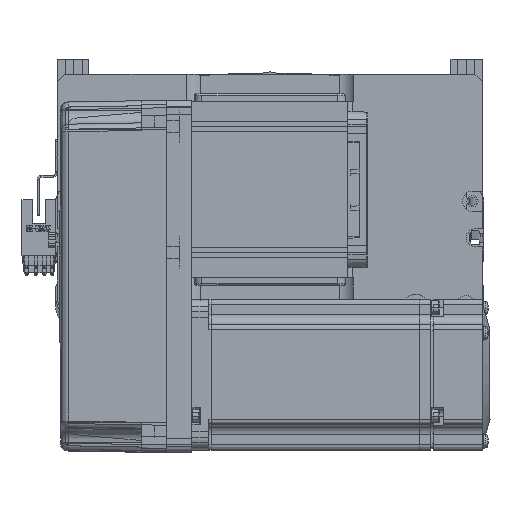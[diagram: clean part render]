
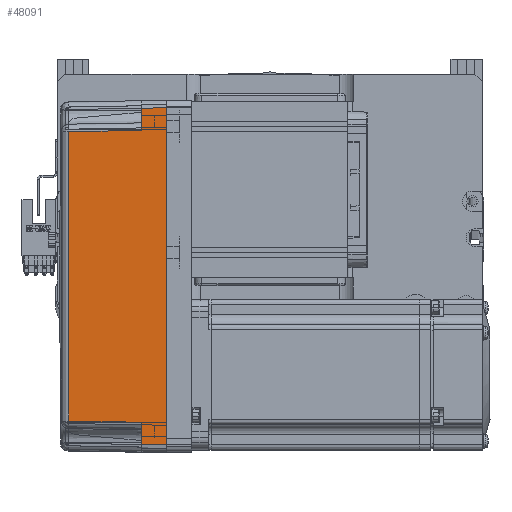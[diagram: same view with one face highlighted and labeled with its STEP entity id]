
A CAD part, top view. The second image highlights one B-rep face of the part: STEP entity #48091.
In plain terms, the highlighted planar face has unit normal (-0.018, 0, 1) as drawn and (0, -1, 0.017) by its records, which use the part's own axes.
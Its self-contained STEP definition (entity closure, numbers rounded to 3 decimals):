
#120 = CARTESIAN_POINT ( 'NONE',  ( 66.826, -35.825, 10. ) ) ;
#4105 = CARTESIAN_POINT ( 'NONE',  ( 57.495, -35.32, 38.985 ) ) ;
#5596 = VERTEX_POINT ( 'NONE', #7507 ) ;
#5601 = CARTESIAN_POINT ( 'NONE',  ( 70., -35.825, 10. ) ) ;
#5920 = ORIENTED_EDGE ( 'NONE', *, *, #43142, .T. ) ;
#7507 = CARTESIAN_POINT ( 'NONE',  ( -67., -36., 0. ) ) ;
#7694 = VECTOR ( 'NONE', #14214, 1000. ) ;
#7982 = CARTESIAN_POINT ( 'NONE',  ( -66.959, -35.958, 2.39 ) ) ;
#8060 = DIRECTION ( 'NONE',  ( 0., -0.017, -1. ) ) ;
#9999 = VECTOR ( 'NONE', #15807, 1000. ) ;
#10722 = CARTESIAN_POINT ( 'NONE',  ( 58., -35.825, 10. ) ) ;
#10927 = LINE ( 'NONE', #16470, #7694 ) ;
#11563 = ORIENTED_EDGE ( 'NONE', *, *, #63615, .T. ) ;
#11818 = CARTESIAN_POINT ( 'NONE',  ( -66.826, -35.825, 10. ) ) ;
#13526 = DIRECTION ( 'NONE',  ( -0.017, 0.017, 1. ) ) ;
#14214 = DIRECTION ( 'NONE',  ( -1., 0., 0. ) ) ;
#15003 = ORIENTED_EDGE ( 'NONE', *, *, #39105, .T. ) ;
#15807 = DIRECTION ( 'NONE',  ( -1., 0., 0. ) ) ;
#16470 = CARTESIAN_POINT ( 'NONE',  ( 0., -36., 0. ) ) ;
#17530 = EDGE_CURVE ( 'NONE', #19222, #5596, #10927, .T. ) ;
#19222 = VERTEX_POINT ( 'NONE', #44253 ) ;
#19771 = CARTESIAN_POINT ( 'NONE',  ( 70., -35.825, 10. ) ) ;
#20755 = VECTOR ( 'NONE', #48804, 1000. ) ;
#21116 = LINE ( 'NONE', #19771, #34849 ) ;
#21977 = VERTEX_POINT ( 'NONE', #48353 ) ;
#24175 = VERTEX_POINT ( 'NONE', #10722 ) ;
#24476 = LINE ( 'NONE', #59557, #30919 ) ;
#24515 = CARTESIAN_POINT ( 'NONE',  ( 19.165, -35.316, 39.181 ) ) ;
#24696 = EDGE_CURVE ( 'NONE', #24175, #25504, #34433, .T. ) ;
#25195 = DIRECTION ( 'NONE',  ( -1., 0., 0. ) ) ;
#25504 = VERTEX_POINT ( 'NONE', #65760 ) ;
#28864 = DIRECTION ( 'NONE',  ( -0.017, -0.017, -1. ) ) ;
#28892 = CARTESIAN_POINT ( 'NONE',  ( 67., -36., 0. ) ) ;
#29580 = ORIENTED_EDGE ( 'NONE', *, *, #30794, .T. ) ;
#30794 = EDGE_CURVE ( 'NONE', #25504, #50284, #65531, .T. ) ;
#30919 = VECTOR ( 'NONE', #28864, 1000. ) ;
#31007 = ORIENTED_EDGE ( 'NONE', *, *, #24696, .T. ) ;
#32232 = VERTEX_POINT ( 'NONE', #11818 ) ;
#33789 = ORIENTED_EDGE ( 'NONE', *, *, #55203, .F. ) ;
#33841 = CARTESIAN_POINT ( 'NONE',  ( 70., -36., 0. ) ) ;
#34433 = LINE ( 'NONE', #67083, #48934 ) ;
#34669 = LINE ( 'NONE', #28892, #64526 ) ;
#34849 = VECTOR ( 'NONE', #25195, 1000. ) ;
#35658 = FACE_OUTER_BOUND ( 'NONE', #63757, .T. ) ;
#37862 = AXIS2_PLACEMENT_3D ( 'NONE', #33841, #44168, #8060 ) ;
#39105 = EDGE_CURVE ( 'NONE', #21977, #32232, #21116, .T. ) ;
#39330 = LINE ( 'NONE', #7982, #20755 ) ;
#43142 = EDGE_CURVE ( 'NONE', #19222, #43260, #34669, .T. ) ;
#43260 = VERTEX_POINT ( 'NONE', #120 ) ;
#44168 = DIRECTION ( 'NONE',  ( 0., -1., 0.017 ) ) ;
#44253 = CARTESIAN_POINT ( 'NONE',  ( 67., -36., 0. ) ) ;
#44705 = LINE ( 'NONE', #5601, #9999 ) ;
#46075 = EDGE_CURVE ( 'NONE', #43260, #24175, #44705, .T. ) ;
#47103 = ORIENTED_EDGE ( 'NONE', *, *, #46075, .T. ) ;
#48091 = ADVANCED_FACE ( 'NONE', ( #35658 ), #64748, .T. ) ;
#48353 = CARTESIAN_POINT ( 'NONE',  ( -58., -35.825, 10. ) ) ;
#48804 = DIRECTION ( 'NONE',  ( 0.017, 0.017, 1. ) ) ;
#48934 = VECTOR ( 'NONE', #66654, 1000. ) ;
#49586 = ORIENTED_EDGE ( 'NONE', *, *, #17530, .F. ) ;
#50284 = VERTEX_POINT ( 'NONE', #64450 ) ;
#55203 = EDGE_CURVE ( 'NONE', #5596, #32232, #39330, .T. ) ;
#59557 = CARTESIAN_POINT ( 'NONE',  ( -57.495, -35.32, 38.985 ) ) ;
#60593 = CARTESIAN_POINT ( 'NONE',  ( -57.495, -35.32, 38.985 ) ) ;
#63615 = EDGE_CURVE ( 'NONE', #50284, #21977, #24476, .T. ) ;
#63757 = EDGE_LOOP ( 'NONE', ( #5920, #47103, #31007, #29580, #11563, #15003, #33789, #49586 ) ) ;
#64450 = CARTESIAN_POINT ( 'NONE',  ( -57.495, -35.32, 38.985 ) ) ;
#64526 = VECTOR ( 'NONE', #13526, 1000. ) ;
#64748 = PLANE ( 'NONE',  #37862 ) ;
#65531 = B_SPLINE_CURVE_WITH_KNOTS ( 'NONE', 3,
 ( #4105, #24515, #65790, #60593 ),
 .UNSPECIFIED., .F., .F.,
 ( 4, 4 ),
 ( 0., 1. ),
 .UNSPECIFIED. ) ;
#65760 = CARTESIAN_POINT ( 'NONE',  ( 57.495, -35.32, 38.985 ) ) ;
#65790 = CARTESIAN_POINT ( 'NONE',  ( -19.165, -35.316, 39.181 ) ) ;
#66654 = DIRECTION ( 'NONE',  ( -0.017, 0.017, 1. ) ) ;
#67083 = CARTESIAN_POINT ( 'NONE',  ( 58., -35.825, 10. ) ) ;
